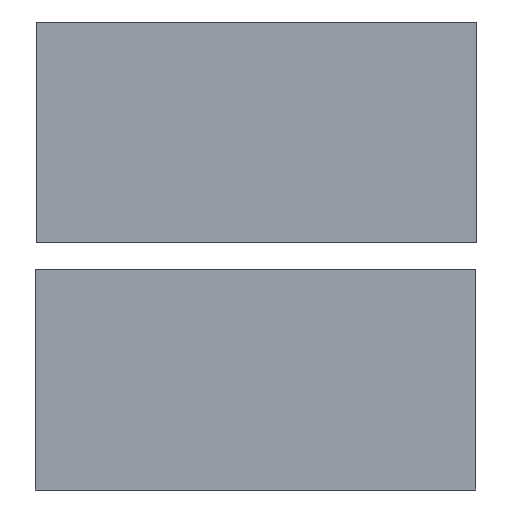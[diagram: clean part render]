
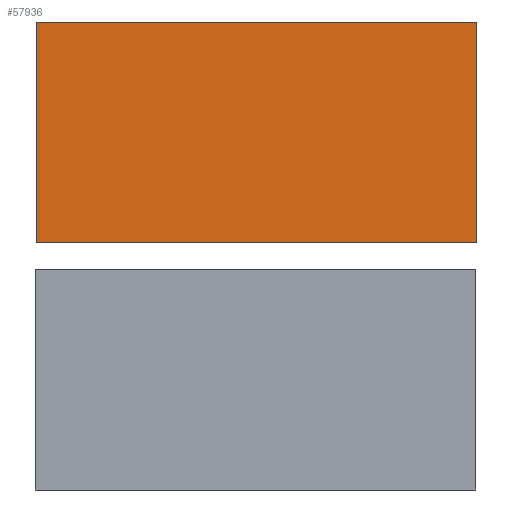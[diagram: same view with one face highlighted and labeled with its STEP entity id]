
A CAD part, front view. The second image highlights one B-rep face of the part: STEP entity #57936.
In plain terms, the highlighted planar face has unit normal (0, -1, 0).
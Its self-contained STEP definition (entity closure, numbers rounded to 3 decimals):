
#1005=PLANE('',#61951);
#3443=FACE_OUTER_BOUND('',#6386,.T.);
#6386=EDGE_LOOP('',(#46844,#46845,#46846,#46847));
#13299=LINE('',#90045,#19999);
#13301=LINE('',#90049,#20001);
#13303=LINE('',#90053,#20003);
#13305=LINE('',#90056,#20005);
#19999=VECTOR('',#72922,10.);
#20001=VECTOR('',#72926,10.);
#20003=VECTOR('',#72930,10.);
#20005=VECTOR('',#72934,10.);
#26269=VERTEX_POINT('',#90042);
#26270=VERTEX_POINT('',#90044);
#26271=VERTEX_POINT('',#90048);
#26272=VERTEX_POINT('',#90052);
#33599=EDGE_CURVE('',#26270,#26269,#13299,.T.);
#33601=EDGE_CURVE('',#26271,#26270,#13301,.T.);
#33603=EDGE_CURVE('',#26272,#26271,#13303,.T.);
#33605=EDGE_CURVE('',#26269,#26272,#13305,.T.);
#46844=ORIENTED_EDGE('',*,*,#33605,.T.);
#46845=ORIENTED_EDGE('',*,*,#33603,.T.);
#46846=ORIENTED_EDGE('',*,*,#33601,.T.);
#46847=ORIENTED_EDGE('',*,*,#33599,.T.);
#57936=ADVANCED_FACE('',(#3443),#1005,.T.);
#61951=AXIS2_PLACEMENT_3D('',#90058,#72937,#72938);
#72922=DIRECTION('',(-1.,0.,0.));
#72926=DIRECTION('',(0.,0.,1.));
#72930=DIRECTION('',(1.,0.,0.));
#72934=DIRECTION('',(0.,0.,-1.));
#72937=DIRECTION('center_axis',(0.,-1.,0.));
#72938=DIRECTION('ref_axis',(0.,0.,-1.));
#90042=CARTESIAN_POINT('',(0.,-4.,0.));
#90044=CARTESIAN_POINT('',(60.,-4.,0.));
#90045=CARTESIAN_POINT('',(0.,-4.,0.));
#90048=CARTESIAN_POINT('',(60.,-4.,-30.));
#90049=CARTESIAN_POINT('',(60.,-4.,0.));
#90052=CARTESIAN_POINT('',(0.,-4.,-30.));
#90053=CARTESIAN_POINT('',(60.,-4.,-30.));
#90056=CARTESIAN_POINT('',(0.,-4.,-30.));
#90058=CARTESIAN_POINT('Origin',(30.,-4.,-15.));
